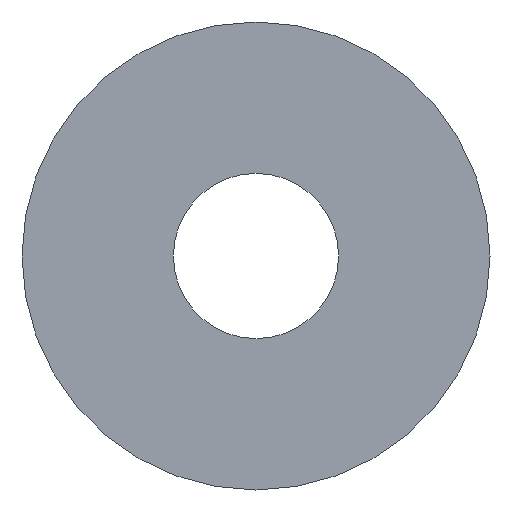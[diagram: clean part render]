
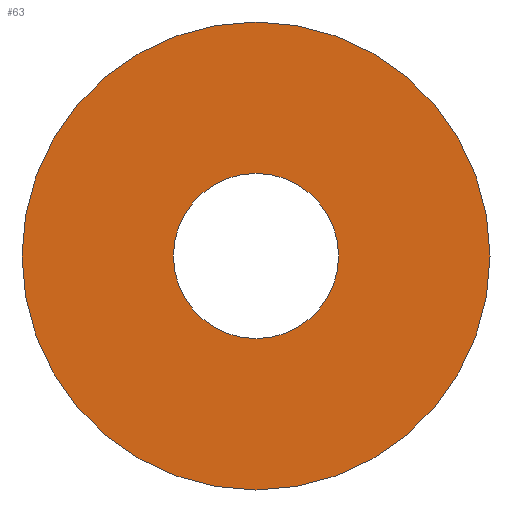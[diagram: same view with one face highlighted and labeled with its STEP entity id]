
A CAD part, front view. The second image highlights one B-rep face of the part: STEP entity #63.
In plain terms, the highlighted planar face has unit normal (0, -1, 0).
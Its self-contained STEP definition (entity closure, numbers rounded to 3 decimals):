
#15=FACE_BOUND('',#26,.T.);
#17=PLANE('',#85);
#21=FACE_OUTER_BOUND('',#25,.T.);
#25=EDGE_LOOP('',(#55));
#26=EDGE_LOOP('',(#56));
#33=CIRCLE('',#80,4.763);
#36=CIRCLE('',#84,13.5);
#37=VERTEX_POINT('',#109);
#40=VERTEX_POINT('',#117);
#41=EDGE_CURVE('',#37,#37,#33,.F.);
#46=EDGE_CURVE('',#40,#40,#36,.T.);
#55=ORIENTED_EDGE('',*,*,#46,.T.);
#56=ORIENTED_EDGE('',*,*,#41,.T.);
#63=ADVANCED_FACE('',(#21,#15),#17,.T.);
#80=AXIS2_PLACEMENT_3D('',#110,#91,#92);
#84=AXIS2_PLACEMENT_3D('',#119,#101,#102);
#85=AXIS2_PLACEMENT_3D('',#120,#103,#104);
#91=DIRECTION('center_axis',(0.,-1.,0.));
#92=DIRECTION('ref_axis',(0.,0.,-1.));
#101=DIRECTION('center_axis',(0.,-1.,0.));
#102=DIRECTION('ref_axis',(0.,0.,-1.));
#103=DIRECTION('center_axis',(0.,-1.,0.));
#104=DIRECTION('ref_axis',(0.,0.,-1.));
#109=CARTESIAN_POINT('',(13.673,13.549,126.66));
#110=CARTESIAN_POINT('Origin',(13.673,13.549,131.423));
#117=CARTESIAN_POINT('',(13.673,13.549,117.923));
#119=CARTESIAN_POINT('Origin',(13.673,13.549,131.423));
#120=CARTESIAN_POINT('Origin',(0.,13.549,0.));
